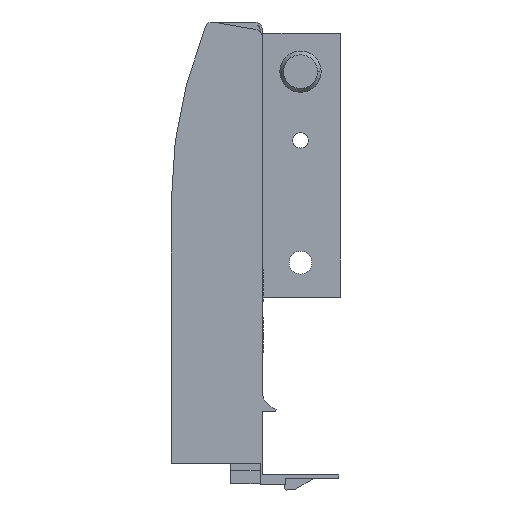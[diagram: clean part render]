
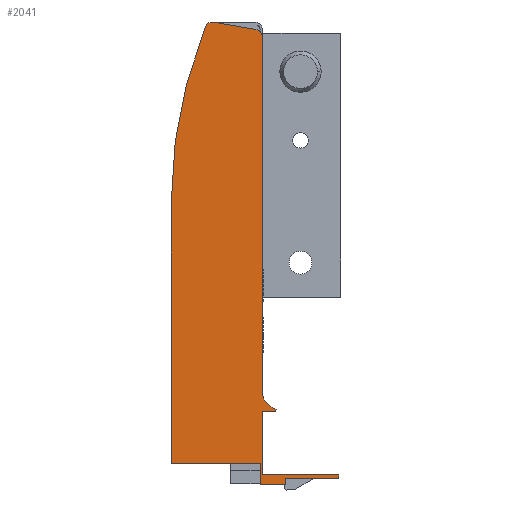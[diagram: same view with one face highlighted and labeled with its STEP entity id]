
A CAD part, front view. The second image highlights one B-rep face of the part: STEP entity #2041.
In plain terms, the highlighted planar face has unit normal (0, -1, 0).
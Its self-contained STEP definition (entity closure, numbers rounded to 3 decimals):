
#158 = PLANE ( 'NONE',  #2117 ) ;
#161 = CARTESIAN_POINT ( 'NONE',  ( 8.75, 0., 61.5 ) ) ;
#167 = DIRECTION ( 'NONE',  ( 0., 1., 0. ) ) ;
#168 = DIRECTION ( 'NONE',  ( 0., 0., 1. ) ) ;
#183 = CARTESIAN_POINT ( 'NONE',  ( 21.5, 0., 98.06 ) ) ;
#189 = DIRECTION ( 'NONE',  ( 0., 0., -1. ) ) ;
#203 = CARTESIAN_POINT ( 'NONE',  ( 21.5, 0., -16.5 ) ) ;
#211 = DIRECTION ( 'NONE',  ( 1., 0., 0. ) ) ;
#214 = CARTESIAN_POINT ( 'NONE',  ( 25., 0., 0. ) ) ;
#217 = DIRECTION ( 'NONE',  ( -1., 0., 0. ) ) ;
#240 = CARTESIAN_POINT ( 'NONE',  ( 41.499, 0., -16.5 ) ) ;
#241 = DIRECTION ( 'NONE',  ( 0., 0., -1. ) ) ;
#281 = CARTESIAN_POINT ( 'NONE',  ( 21.5, 0., 0. ) ) ;
#284 = DIRECTION ( 'NONE',  ( 0., 0., -1. ) ) ;
#344 = CARTESIAN_POINT ( 'NONE',  ( 27.599, 0., -17.528 ) ) ;
#347 = DIRECTION ( 'NONE',  ( 0., 0., -1. ) ) ;
#354 = CARTESIAN_POINT ( 'NONE',  ( 27.599, 0., -19.1 ) ) ;
#355 = DIRECTION ( 'NONE',  ( -1., 0., 0. ) ) ;
#398 = CARTESIAN_POINT ( 'NONE',  ( 8.847, 0., 101.97 ) ) ;
#399 = DIRECTION ( 'NONE',  ( 0.985, 0., -0.174 ) ) ;
#405 = CARTESIAN_POINT ( 'NONE',  ( 41.499, 0., -17.528 ) ) ;
#414 = DIRECTION ( 'NONE',  ( -1., 0., 0. ) ) ;
#495 = CARTESIAN_POINT ( 'NONE',  ( 19.5, 0., 98.06 ) ) ;
#497 = DIRECTION ( 'NONE',  ( 0., 1., 0. ) ) ;
#498 = DIRECTION ( 'NONE',  ( -1., 0., 0. ) ) ;
#576 = CARTESIAN_POINT ( 'NONE',  ( 26.5, 0., 5.395 ) ) ;
#592 = DIRECTION ( 'NONE',  ( 0., -1., 0. ) ) ;
#593 = DIRECTION ( 'NONE',  ( -1., 0., 0. ) ) ;
#594 = CARTESIAN_POINT ( 'NONE',  ( 118.3, 0., 55.168 ) ) ;
#595 = DIRECTION ( 'NONE',  ( 0., 1., 0. ) ) ;
#596 = DIRECTION ( 'NONE',  ( -1., 0., 0. ) ) ;
#624 = CARTESIAN_POINT ( 'NONE',  ( 25.161, 0., 0.578 ) ) ;
#625 = DIRECTION ( 'NONE',  ( -0.268, 0., -0.963 ) ) ;
#626 = CARTESIAN_POINT ( 'NONE',  ( -2.3, 0., -13.5 ) ) ;
#627 = DIRECTION ( 'NONE',  ( -1., 0., 0. ) ) ;
#658 = CARTESIAN_POINT ( 'NONE',  ( -2.3, 0., -13.5 ) ) ;
#659 = DIRECTION ( 'NONE',  ( 0., 0., 1. ) ) ;
#660 = CARTESIAN_POINT ( 'NONE',  ( 8.5, 0., 100. ) ) ;
#668 = CARTESIAN_POINT ( 'NONE',  ( 20.9, 0., -19.1 ) ) ;
#669 = DIRECTION ( 'NONE',  ( 0., 0., 1. ) ) ;
#675 = DIRECTION ( 'NONE',  ( 0., 1., 0. ) ) ;
#676 = DIRECTION ( 'NONE',  ( -1., 0., 0. ) ) ;
#746 = CIRCLE ( 'NONE', #2393, 5. ) ;
#748 = CIRCLE ( 'NONE', #2404, 120.6 ) ;
#771 = LINE ( 'NONE', #624, #772 ) ;
#772 = VECTOR ( 'NONE', #625, 1000. ) ;
#773 = LINE ( 'NONE', #626, #774 ) ;
#774 = VECTOR ( 'NONE', #627, 1000. ) ;
#786 = LINE ( 'NONE', #668, #793 ) ;
#791 = LINE ( 'NONE', #658, #792 ) ;
#792 = VECTOR ( 'NONE', #659, 1000. ) ;
#793 = VECTOR ( 'NONE', #669, 1000. ) ;
#803 = CIRCLE ( 'NONE', #2425, 2. ) ;
#852 = VECTOR ( 'NONE', #347, 1000. ) ;
#886 = ORIENTED_EDGE ( 'NONE', *, *, #2314, .F. ) ;
#897 = LINE ( 'NONE', #344, #852 ) ;
#961 = VECTOR ( 'NONE', #399, 1000. ) ;
#978 = ORIENTED_EDGE ( 'NONE', *, *, #2062, .F. ) ;
#1008 = ORIENTED_EDGE ( 'NONE', *, *, #2203, .F. ) ;
#1019 = ORIENTED_EDGE ( 'NONE', *, *, #2095, .F. ) ;
#1022 = ORIENTED_EDGE ( 'NONE', *, *, #2084, .F. ) ;
#1035 = VECTOR ( 'NONE', #241, 1000. ) ;
#1058 = ORIENTED_EDGE ( 'NONE', *, *, #2329, .F. ) ;
#1065 = LINE ( 'NONE', #183, #1733 ) ;
#1078 = LINE ( 'NONE', #405, #1079 ) ;
#1079 = VECTOR ( 'NONE', #414, 1000. ) ;
#1090 = ORIENTED_EDGE ( 'NONE', *, *, #2356, .F. ) ;
#1093 = ORIENTED_EDGE ( 'NONE', *, *, #2159, .F. ) ;
#1159 = VECTOR ( 'NONE', #217, 1000. ) ;
#1173 = VECTOR ( 'NONE', #355, 1000. ) ;
#1188 = VECTOR ( 'NONE', #284, 1000. ) ;
#1222 = ORIENTED_EDGE ( 'NONE', *, *, #2166, .F. ) ;
#1300 = LINE ( 'NONE', #281, #1188 ) ;
#1318 = ORIENTED_EDGE ( 'NONE', *, *, #2315, .F. ) ;
#1335 = LINE ( 'NONE', #398, #961 ) ;
#1370 = ORIENTED_EDGE ( 'NONE', *, *, #2129, .F. ) ;
#1371 = ORIENTED_EDGE ( 'NONE', *, *, #2081, .F. ) ;
#1448 = CIRCLE ( 'NONE', #2403, 2. ) ;
#1490 = LINE ( 'NONE', #354, #1173 ) ;
#1584 = ORIENTED_EDGE ( 'NONE', *, *, #2360, .F. ) ;
#1596 = ORIENTED_EDGE ( 'NONE', *, *, #2330, .F. ) ;
#1597 = ORIENTED_EDGE ( 'NONE', *, *, #2352, .F. ) ;
#1606 = EDGE_LOOP ( 'NONE', ( #978, #1750, #1611, #1584, #1318, #1597, #1596, #1090, #1222, #1093, #1008, #1019, #1371, #1370, #1022, #1058, #886 ) ) ;
#1611 = ORIENTED_EDGE ( 'NONE', *, *, #2197, .F. ) ;
#1657 = FACE_OUTER_BOUND ( 'NONE', #1606, .T. ) ;
#1723 = LINE ( 'NONE', #240, #1035 ) ;
#1733 = VECTOR ( 'NONE', #189, 1000. ) ;
#1750 = ORIENTED_EDGE ( 'NONE', *, *, #2262, .F. ) ;
#1762 = VECTOR ( 'NONE', #211, 1000. ) ;
#1766 = LINE ( 'NONE', #214, #1159 ) ;
#1789 = LINE ( 'NONE', #203, #1762 ) ;
#1870 = VERTEX_POINT ( 'NONE', #2570 ) ;
#1871 = VERTEX_POINT ( 'NONE', #2562 ) ;
#1898 = VERTEX_POINT ( 'NONE', #2613 ) ;
#1899 = VERTEX_POINT ( 'NONE', #2612 ) ;
#1920 = VERTEX_POINT ( 'NONE', #2603 ) ;
#1921 = VERTEX_POINT ( 'NONE', #2604 ) ;
#1925 = VERTEX_POINT ( 'NONE', #2579 ) ;
#1933 = VERTEX_POINT ( 'NONE', #2605 ) ;
#1934 = VERTEX_POINT ( 'NONE', #2606 ) ;
#1935 = VERTEX_POINT ( 'NONE', #2593 ) ;
#1936 = VERTEX_POINT ( 'NONE', #2594 ) ;
#1937 = VERTEX_POINT ( 'NONE', #2627 ) ;
#1938 = VERTEX_POINT ( 'NONE', #2638 ) ;
#1939 = VERTEX_POINT ( 'NONE', #2640 ) ;
#1940 = VERTEX_POINT ( 'NONE', #2641 ) ;
#1941 = VERTEX_POINT ( 'NONE', #2631 ) ;
#1942 = VERTEX_POINT ( 'NONE', #2623 ) ;
#2041 = ADVANCED_FACE ( 'NONE', ( #1657 ), #158, .F. ) ;
#2062 = EDGE_CURVE ( 'NONE', #1871, #1933, #1065, .T. ) ;
#2081 = EDGE_CURVE ( 'NONE', #1899, #1940, #1789, .T. ) ;
#2084 = EDGE_CURVE ( 'NONE', #1941, #1898, #1766, .T. ) ;
#2095 = EDGE_CURVE ( 'NONE', #1940, #1939, #1723, .T. ) ;
#2117 = AXIS2_PLACEMENT_3D ( 'NONE', #161, #167, #168 ) ;
#2129 = EDGE_CURVE ( 'NONE', #1898, #1899, #1300, .T. ) ;
#2159 = EDGE_CURVE ( 'NONE', #1938, #1937, #897, .T. ) ;
#2166 = EDGE_CURVE ( 'NONE', #1937, #1925, #1490, .T. ) ;
#2197 = EDGE_CURVE ( 'NONE', #1934, #1870, #1335, .T. ) ;
#2203 = EDGE_CURVE ( 'NONE', #1939, #1938, #1078, .T. ) ;
#2262 = EDGE_CURVE ( 'NONE', #1870, #1871, #1448, .T. ) ;
#2314 = EDGE_CURVE ( 'NONE', #1933, #1942, #746, .T. ) ;
#2315 = EDGE_CURVE ( 'NONE', #1936, #1935, #748, .T. ) ;
#2329 = EDGE_CURVE ( 'NONE', #1942, #1941, #771, .T. ) ;
#2330 = EDGE_CURVE ( 'NONE', #1920, #1921, #773, .T. ) ;
#2352 = EDGE_CURVE ( 'NONE', #1921, #1936, #791, .T. ) ;
#2356 = EDGE_CURVE ( 'NONE', #1925, #1920, #786, .T. ) ;
#2360 = EDGE_CURVE ( 'NONE', #1935, #1934, #803, .T. ) ;
#2393 = AXIS2_PLACEMENT_3D ( 'NONE', #576, #592, #593 ) ;
#2403 = AXIS2_PLACEMENT_3D ( 'NONE', #495, #497, #498 ) ;
#2404 = AXIS2_PLACEMENT_3D ( 'NONE', #594, #595, #596 ) ;
#2425 = AXIS2_PLACEMENT_3D ( 'NONE', #660, #675, #676 ) ;
#2562 = CARTESIAN_POINT ( 'NONE',  ( 21.5, 0., 98.06 ) ) ;
#2570 = CARTESIAN_POINT ( 'NONE',  ( 19.847, 0., 100.03 ) ) ;
#2579 = CARTESIAN_POINT ( 'NONE',  ( 20.9, 0., -19.1 ) ) ;
#2593 = CARTESIAN_POINT ( 'NONE',  ( 6.648, 0., 100.756 ) ) ;
#2594 = CARTESIAN_POINT ( 'NONE',  ( -2.3, 0., 55.168 ) ) ;
#2603 = CARTESIAN_POINT ( 'NONE',  ( 20.9, 0., -13.5 ) ) ;
#2604 = CARTESIAN_POINT ( 'NONE',  ( -2.3, 0., -13.5 ) ) ;
#2605 = CARTESIAN_POINT ( 'NONE',  ( 21.5, 0., 5.395 ) ) ;
#2606 = CARTESIAN_POINT ( 'NONE',  ( 8.847, 0., 101.97 ) ) ;
#2612 = CARTESIAN_POINT ( 'NONE',  ( 21.5, 0., -16.5 ) ) ;
#2613 = CARTESIAN_POINT ( 'NONE',  ( 21.5, 0., 0. ) ) ;
#2623 = CARTESIAN_POINT ( 'NONE',  ( 25.161, 0., 0.578 ) ) ;
#2627 = CARTESIAN_POINT ( 'NONE',  ( 27.599, 0., -19.1 ) ) ;
#2631 = CARTESIAN_POINT ( 'NONE',  ( 25., 0., 0. ) ) ;
#2638 = CARTESIAN_POINT ( 'NONE',  ( 27.599, 0., -17.528 ) ) ;
#2640 = CARTESIAN_POINT ( 'NONE',  ( 41.499, 0., -17.528 ) ) ;
#2641 = CARTESIAN_POINT ( 'NONE',  ( 41.499, 0., -16.5 ) ) ;
